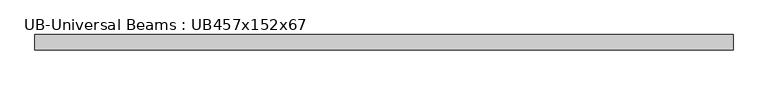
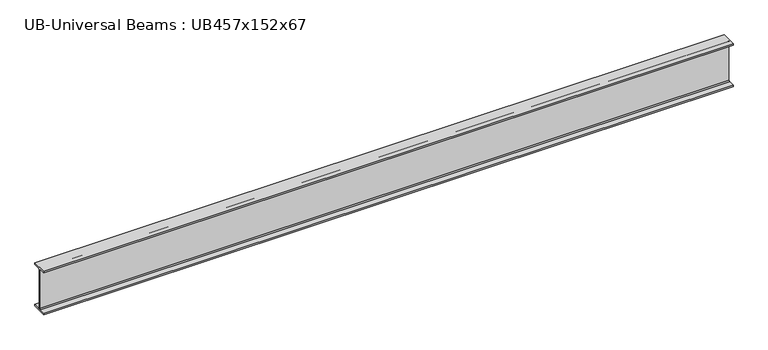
"""IFC4 building model written with IfcOpenShell, lengths in millimetres: beam geometry, UB-Universal Beams : UB457x152x67."""

from ifc_helpers import new_model, si_unit, point, frame, frame_2d, origin, place, context, project, spatial, polyline, circle_curve, trimmed, segment, composite_curve, outline, extrude, source, transform, mapped, element, save


def ub_universal_beams_ub457x152x67_b57c4d69(model_context):
    return source(origin(), model_context, "Body", "SweptSolid", [
        extrude(outline(composite_curve([segment(polyline([(76.9, -214.0), (76.9, -229.0), (-76.9, -229.0), (-76.9, -214.0), (-14.7, -214.0)]), True, "CONTINUOUS"), segment(trimmed(circle_curve(frame_2d((-14.7, -203.8)), 10.2), [point((-14.7, -214.0))], [point((-4.5, -203.8))], True, "CARTESIAN"), True, "CONTINUOUS"), segment(polyline([(-4.5, -203.8), (-4.5, 203.8)]), True, "CONTINUOUS"), segment(trimmed(circle_curve(frame_2d((-14.7, 203.8)), 10.2), [point((-4.5, 203.8))], [point((-14.7, 214.0))], True, "CARTESIAN"), True, "CONTINUOUS"), segment(polyline([(-14.7, 214.0), (-76.9, 214.0), (-76.9, 229.0), (76.9, 229.0), (76.9, 214.0), (14.7, 214.0)]), True, "CONTINUOUS"), segment(trimmed(circle_curve(frame_2d((14.7, 203.8)), 10.2), [point((14.7, 214.0))], [point((4.5, 203.8))], True, "CARTESIAN"), True, "CONTINUOUS"), segment(polyline([(4.5, 203.8), (4.5, -203.8)]), True, "CONTINUOUS"), segment(trimmed(circle_curve(frame_2d((14.7, -203.8)), 10.2), [point((4.5, -203.8))], [point((14.7, -214.0))], True, "CARTESIAN"), True, "CONTINUOUS"), segment(polyline([(14.7, -214.0), (76.9, -214.0)]), True, "CONTINUOUS")], self_intersect=False)), frame((-3362.9, 0.0, 0.0), z_axis=(1.0, 0.0, 0.0), x_axis=(0.0, 1.0, 0.0)), (0.0, 0.0, 1.0), 6923.3),
    ])


if __name__ == "__main__":
    model = new_model("IFC4")
    model_context = context("Model", 3, world=origin())
    ifc_project = project(units=[si_unit("LENGTHUNIT", "METRE", prefix="MILLI")], contexts=[model_context])
    site = spatial("IfcSite", under=ifc_project)
    building = spatial("IfcBuilding", under=site)
    placement = place(None, origin())
    ub_universal_beams_ub457x152x67_shape = ub_universal_beams_ub457x152x67_b57c4d69(model_context)
    element("IfcBeam", 1, ObjectType="UB-Universal Beams : UB457x152x67", at=placement, inside=building, context=model_context, shape_type="MappedRepresentation", body=[
        mapped(ub_universal_beams_ub457x152x67_shape, transform((0.0, 0.0, 0.0), x_axis=(1.0, 0.0, 0.0), y_axis=(0.0, 1.0, 0.0), z_axis=(0.0, 0.0, 1.0))),
    ])
    save(model, "model.ifc")
